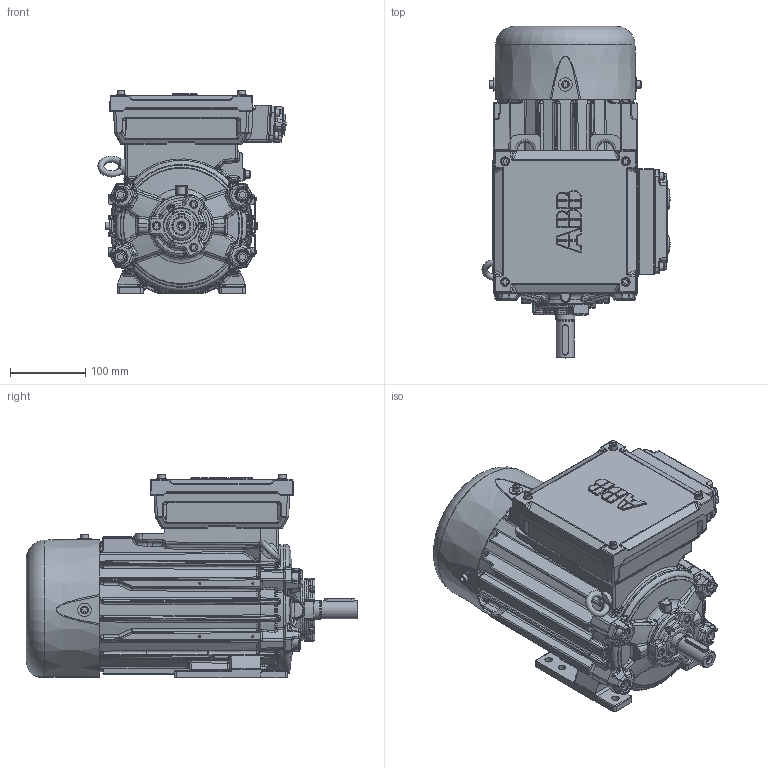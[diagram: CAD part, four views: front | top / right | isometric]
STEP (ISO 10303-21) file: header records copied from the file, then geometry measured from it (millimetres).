
FILE_DESCRIPTION(/* description */ (''),/* implementation_level */ '2;1');
FILE_NAME(/* name */ '3GZF500109-137_A_STEP.stp',/* time_stamp */ '2018-10-16T09:16:47+03:00',/* author */ (''),/* organization */ (''),/* preprocessor_version */ 'ST-DEVELOPER v16',/* originating_system */ 'SIEMENS PLM Software NX 10.0',/* authorisation */ '');
FILE_SCHEMA (('AUTOMOTIVE_DESIGN { 1 0 10303 214 3 1 1 1 }'));
Length unit declared in the file: millimetre
Products named in the file (1): FIEED4548C78odjm
Bounding box: 249.37 x 439.8 x 269.25 mm (x, y, z)
Surface area: 616674.6 mm2 (no closed solid volume)
Topology: 0 solids, 110 shells, 2939 faces, 9011 edges, 5815 vertices
Faces by surface type: bspline 1145, cylinder 782, plane 495, torus 190, cone 177, sphere 146, revolution 4
Full cylindrical faces by diameter (mm): 6.8 x1, 8.4 x1, 10 x21, 14 x1, 15 x1, 16 x4, 18 x7, 20 x1, 23 x1, 24 x1, 25 x1, 28 x1
Entity records: 126044 total; most frequent: CARTESIAN_POINT 53744, ORIENTED_EDGE 14259, DIRECTION 13831, EDGE_CURVE 8738, VERTEX_POINT 5769, AXIS2_PLACEMENT_3D 5549, EDGE_LOOP 3281, ADVANCED_FACE 2939
